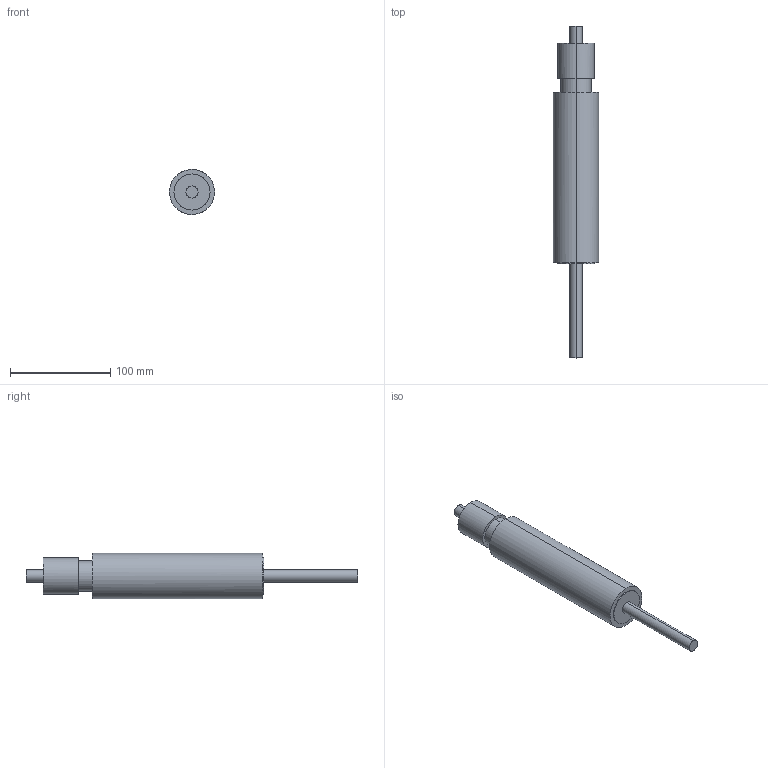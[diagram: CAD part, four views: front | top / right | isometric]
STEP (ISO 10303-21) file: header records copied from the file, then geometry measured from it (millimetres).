
FILE_DESCRIPTION(('CATIA V5 STEP Exchange'),'2;1');
FILE_NAME('C:\Users\Utente\Desktop\3D files D995\D995-3.stp','2020-04-17T13:57:27+00:00',('none'),('none'),'CATIA Version 5 Release 20 GA (IN-10)','CATIA V5 STEP AP203','none');
FILE_SCHEMA(('CONFIG_CONTROL_DESIGN'));
Length unit declared in the file: millimetre
Products named in the file (1): D995-3
Bounding box: 45 x 331 x 45 mm (x, y, z)
Volume: 329466.7 mm3; surface area: 37411.7 mm2
Topology: 1 solids, 1 shells, 19 faces, 60 edges, 48 vertices
Faces by surface type: cylinder 12, plane 7
Entity records: 872 total; most frequent: CARTESIAN_POINT 296, ORIENTED_EDGE 120, DIRECTION 86, EDGE_CURVE 60, AXIS2_PLACEMENT_3D 56, VERTEX_POINT 48, CIRCLE 36, EDGE_LOOP 24
